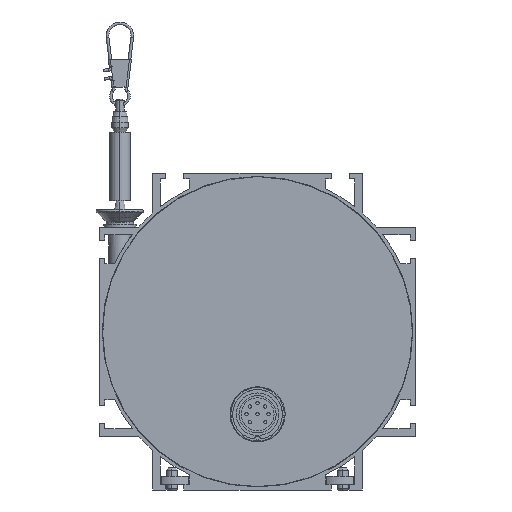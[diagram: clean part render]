
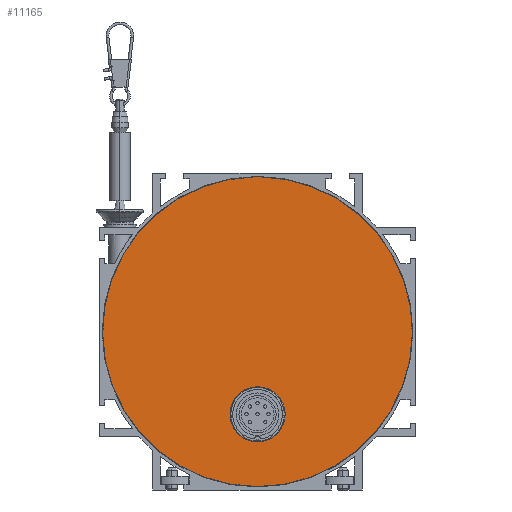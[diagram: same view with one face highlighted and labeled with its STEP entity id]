
A CAD part, left-side view. The second image highlights one B-rep face of the part: STEP entity #11165.
In plain terms, the highlighted planar face has unit normal (-1, 0, 0).
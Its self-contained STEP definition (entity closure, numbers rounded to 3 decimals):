
#3723=CARTESIAN_POINT('',(-153.,0.,0.));
#3724=DIRECTION('',(-1.,0.,0.));
#3725=DIRECTION('',(0.,0.019,1.));
#3726=AXIS2_PLACEMENT_3D('',#3723,#3724,#3725);
#3732=DIRECTION('',(0.,1.,0.));
#3733=VECTOR('',#3732,2.121);
#3734=CARTESIAN_POINT('',(-153.,-1.061,56.24));
#3735=LINE('',#3734,#3733);
#3736=CARTESIAN_POINT('',(-153.,0.,-30.));
#3737=DIRECTION('',(-1.,0.,0.));
#3738=DIRECTION('',(0.,1.,0.));
#3739=AXIS2_PLACEMENT_3D('',#3736,#3737,#3738);
#3741=CARTESIAN_POINT('',(-153.,0.,-30.));
#3742=DIRECTION('',(-1.,0.,0.));
#3743=DIRECTION('',(0.,-1.,0.));
#3744=AXIS2_PLACEMENT_3D('',#3741,#3742,#3743);
#5531=CARTESIAN_POINT('',(-153.,1.061,56.24));
#5532=VERTEX_POINT('',#5531);
#5533=CARTESIAN_POINT('',(-153.,-1.061,56.24));
#5534=VERTEX_POINT('',#5533);
#5647=CARTESIAN_POINT('',(-153.,10.,-30.));
#5648=CARTESIAN_POINT('',(-153.,-10.,-30.));
#5649=VERTEX_POINT('',#5647);
#5650=VERTEX_POINT('',#5648);
#11150=CARTESIAN_POINT('',(-153.,0.,0.));
#11151=DIRECTION('',(1.,0.,0.));
#11152=DIRECTION('',(0.,1.,0.));
#11153=AXIS2_PLACEMENT_3D('',#11150,#11151,#11152);
#11154=PLANE('',#11153);
#11155=ORIENTED_EDGE('',*,*,#11130,.F.);
#11156=ORIENTED_EDGE('',*,*,#11144,.F.);
#11157=EDGE_LOOP('',(#11155,#11156));
#11158=FACE_OUTER_BOUND('',#11157,.F.);
#11160=ORIENTED_EDGE('',*,*,#11159,.T.);
#11162=ORIENTED_EDGE('',*,*,#11161,.T.);
#11163=EDGE_LOOP('',(#11160,#11162));
#11164=FACE_BOUND('',#11163,.F.);
#11165=ADVANCED_FACE('',(#11158,#11164),#11154,.F.);
#3727=CIRCLE('',#3726,56.25);
#3740=CIRCLE('',#3739,10.);
#3745=CIRCLE('',#3744,10.);
#11130=EDGE_CURVE('',#5532,#5534,#3727,.T.);
#11144=EDGE_CURVE('',#5534,#5532,#3735,.T.);
#11159=EDGE_CURVE('',#5649,#5650,#3740,.T.);
#11161=EDGE_CURVE('',#5650,#5649,#3745,.T.);
